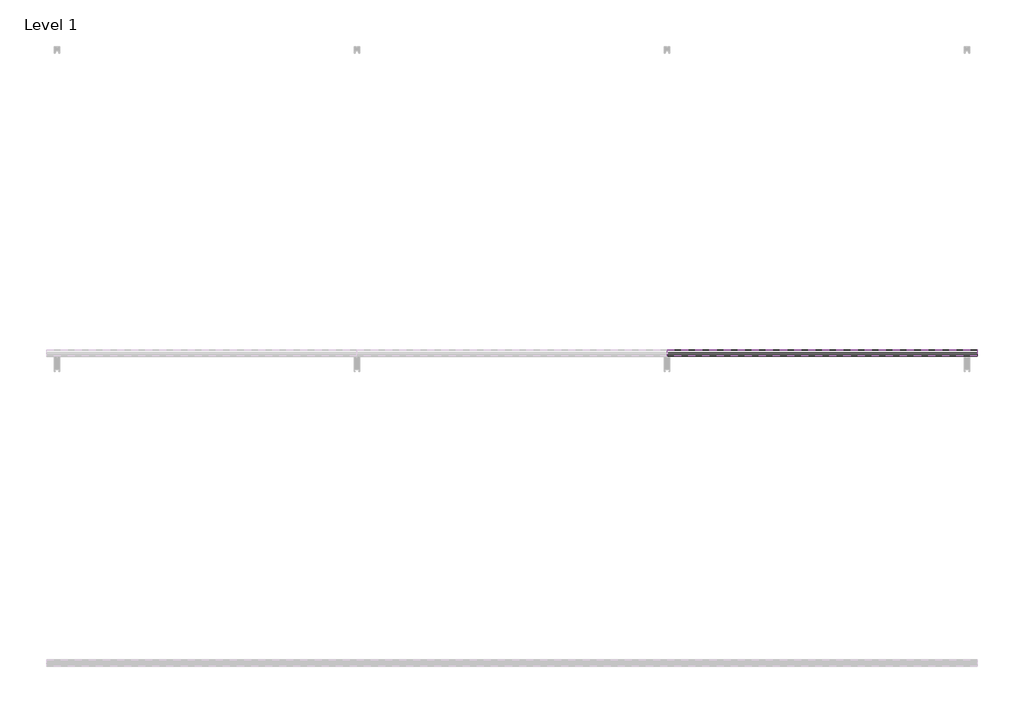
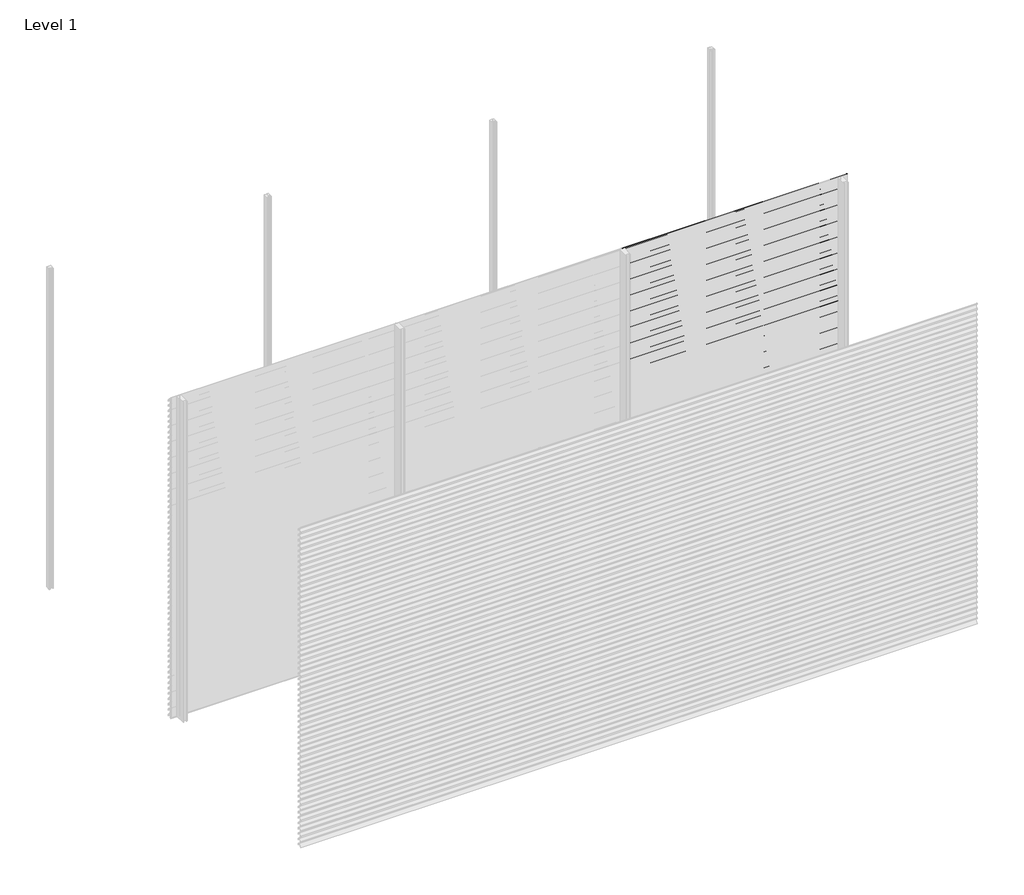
# One storey, part 27 of 38: 66 proxies.
"""IFC4 building model written with IfcOpenShell, lengths in millimetres."""

from ifc_helpers import new_model, si_unit, frame, origin, place, context, project, spatial, polyline, outline, extrude, element, save

model = new_model("IFC4")

# Units and contexts
model_context = context("Model", 3, world=origin())
ifc_project = project(units=[si_unit("LENGTHUNIT", "METRE", prefix="MILLI")], contexts=[model_context])

# Site, building, storey
site = spatial("IfcSite", under=ifc_project)
building = spatial("IfcBuilding", under=site)
storey = spatial("IfcBuildingStorey", under=building, Name="Level 1", Elevation=0.0)

# Proxies
placement = place(None, origin())
element("IfcBuildingElementProxy", 1, Name="Wall Sweeps", at=placement, inside=storey, context=model_context, shape_type="SweptSolid", body=[
    extrude(outline(polyline([(-17996.75, 750.0), (-17996.75, 739.19656), (-17974.6057113, 726.4115489), (-17957.0, 709.0472005), (-17957.0, 694.0472005), (-17958.3, 695.0268207), (-17958.3, 708.5034593), (-17969.4914725, 719.541504), (-17994.2797376, 690.0), (-17995.9767671, 690.0), (-17970.4200307, 720.4573323), (-17975.3999793, 725.3690091), (-17998.0, 738.4171371), (-17998.0, 750.0), (-17996.75, 750.0)])), frame((2000.0, 0.0, 0.0), z_axis=(1.0, 0.0, 0.0), x_axis=(0.0, 1.0, 0.0)), (0.0, 0.0, 1.0), 2000.0),
])
element("IfcBuildingElementProxy", 2, Name="Wall Sweeps", at=placement, inside=storey, context=model_context, shape_type="SweptSolid", body=[
    extrude(outline(polyline([(-17996.75, 700.0), (-17996.75, 689.19656), (-17974.6057113, 676.4115489), (-17957.0, 659.0472005), (-17957.0, 644.0472005), (-17958.3, 645.0268207), (-17958.3, 658.5034593), (-17969.4914725, 669.541504), (-17994.2797376, 640.0), (-17995.9767671, 640.0), (-17970.4200307, 670.4573323), (-17975.3999793, 675.3690091), (-17998.0, 688.4171371), (-17998.0, 700.0), (-17996.75, 700.0)])), frame((2000.0, 0.0, 0.0), z_axis=(1.0, 0.0, 0.0), x_axis=(0.0, 1.0, 0.0)), (0.0, 0.0, 1.0), 2000.0),
])
element("IfcBuildingElementProxy", 3, Name="Wall Sweeps", at=placement, inside=storey, context=model_context, shape_type="SweptSolid", body=[
    extrude(outline(polyline([(-17996.75, 650.0), (-17996.75, 639.19656), (-17974.6057113, 626.4115489), (-17957.0, 609.0472005), (-17957.0, 594.0472005), (-17958.3, 595.0268207), (-17958.3, 608.5034593), (-17969.4914725, 619.541504), (-17994.2797376, 590.0), (-17995.9767671, 590.0), (-17970.4200307, 620.4573323), (-17975.3999793, 625.3690091), (-17998.0, 638.4171371), (-17998.0, 650.0), (-17996.75, 650.0)])), frame((2000.0, 0.0, 0.0), z_axis=(1.0, 0.0, 0.0), x_axis=(0.0, 1.0, 0.0)), (0.0, 0.0, 1.0), 2000.0),
])
element("IfcBuildingElementProxy", 4, Name="Wall Sweeps", at=placement, inside=storey, context=model_context, shape_type="SweptSolid", body=[
    extrude(outline(polyline([(-17996.75, 600.0), (-17996.75, 589.19656), (-17974.6057113, 576.4115489), (-17957.0, 559.0472005), (-17957.0, 544.0472005), (-17958.3, 545.0268207), (-17958.3, 558.5034593), (-17969.4914725, 569.541504), (-17994.2797376, 540.0), (-17995.9767671, 540.0), (-17970.4200307, 570.4573323), (-17975.3999793, 575.3690091), (-17998.0, 588.4171371), (-17998.0, 600.0), (-17996.75, 600.0)])), frame((2000.0, 0.0, 0.0), z_axis=(1.0, 0.0, 0.0), x_axis=(0.0, 1.0, 0.0)), (0.0, 0.0, 1.0), 2000.0),
])
element("IfcBuildingElementProxy", 5, Name="Wall Sweeps", at=placement, inside=storey, context=model_context, shape_type="SweptSolid", body=[
    extrude(outline(polyline([(-17996.75, 550.0), (-17996.75, 539.19656), (-17974.6057113, 526.4115489), (-17957.0, 509.0472005), (-17957.0, 494.0472005), (-17958.3, 495.0268207), (-17958.3, 508.5034593), (-17969.4914725, 519.541504), (-17994.2797376, 490.0), (-17995.9767671, 490.0), (-17970.4200307, 520.4573323), (-17975.3999793, 525.3690091), (-17998.0, 538.4171371), (-17998.0, 550.0), (-17996.75, 550.0)])), frame((2000.0, 0.0, 0.0), z_axis=(1.0, 0.0, 0.0), x_axis=(0.0, 1.0, 0.0)), (0.0, 0.0, 1.0), 2000.0),
])
element("IfcBuildingElementProxy", 6, Name="Wall Sweeps", at=placement, inside=storey, context=model_context, shape_type="SweptSolid", body=[
    extrude(outline(polyline([(-17996.75, 500.0), (-17996.75, 489.19656), (-17974.6057113, 476.4115489), (-17957.0, 459.0472005), (-17957.0, 444.0472005), (-17958.3, 445.0268207), (-17958.3, 458.5034593), (-17969.4914725, 469.541504), (-17994.2797376, 440.0), (-17995.9767671, 440.0), (-17970.4200307, 470.4573323), (-17975.3999793, 475.3690091), (-17998.0, 488.4171371), (-17998.0, 500.0), (-17996.75, 500.0)])), frame((2000.0, 0.0, 0.0), z_axis=(1.0, 0.0, 0.0), x_axis=(0.0, 1.0, 0.0)), (0.0, 0.0, 1.0), 2000.0),
])
element("IfcBuildingElementProxy", 7, Name="Wall Sweeps", at=placement, inside=storey, context=model_context, shape_type="SweptSolid", body=[
    extrude(outline(polyline([(-17996.75, 450.0), (-17996.75, 439.19656), (-17974.6057113, 426.4115489), (-17957.0, 409.0472005), (-17957.0, 394.0472005), (-17958.3, 395.0268207), (-17958.3, 408.5034593), (-17969.4914725, 419.541504), (-17994.2797376, 390.0), (-17995.9767671, 390.0), (-17970.4200307, 420.4573323), (-17975.3999793, 425.3690091), (-17998.0, 438.4171371), (-17998.0, 450.0), (-17996.75, 450.0)])), frame((2000.0, 0.0, 0.0), z_axis=(1.0, 0.0, 0.0), x_axis=(0.0, 1.0, 0.0)), (0.0, 0.0, 1.0), 2000.0),
])
element("IfcBuildingElementProxy", 8, Name="Wall Sweeps", at=placement, inside=storey, context=model_context, shape_type="SweptSolid", body=[
    extrude(outline(polyline([(-17996.75, 400.0), (-17996.75, 389.19656), (-17974.6057113, 376.4115489), (-17957.0, 359.0472005), (-17957.0, 344.0472005), (-17958.3, 345.0268207), (-17958.3, 358.5034593), (-17969.4914725, 369.541504), (-17994.2797376, 340.0), (-17995.9767671, 340.0), (-17970.4200307, 370.4573323), (-17975.3999793, 375.3690091), (-17998.0, 388.4171371), (-17998.0, 400.0), (-17996.75, 400.0)])), frame((2000.0, 0.0, 0.0), z_axis=(1.0, 0.0, 0.0), x_axis=(0.0, 1.0, 0.0)), (0.0, 0.0, 1.0), 2000.0),
])
element("IfcBuildingElementProxy", 9, Name="Wall Sweeps", at=placement, inside=storey, context=model_context, shape_type="SweptSolid", body=[
    extrude(outline(polyline([(-17996.75, 350.0), (-17996.75, 339.19656), (-17974.6057113, 326.4115489), (-17957.0, 309.0472005), (-17957.0, 294.0472005), (-17958.3, 295.0268207), (-17958.3, 308.5034593), (-17969.4914725, 319.541504), (-17994.2797376, 290.0), (-17995.9767671, 290.0), (-17970.4200307, 320.4573323), (-17975.3999793, 325.3690091), (-17998.0, 338.4171371), (-17998.0, 350.0), (-17996.75, 350.0)])), frame((2000.0, 0.0, 0.0), z_axis=(1.0, 0.0, 0.0), x_axis=(0.0, 1.0, 0.0)), (0.0, 0.0, 1.0), 2000.0),
])
element("IfcBuildingElementProxy", 10, Name="Wall Sweeps", at=placement, inside=storey, context=model_context, shape_type="SweptSolid", body=[
    extrude(outline(polyline([(-17996.75, 300.0), (-17996.75, 289.19656), (-17974.6057113, 276.4115489), (-17957.0, 259.0472005), (-17957.0, 244.0472005), (-17958.3, 245.0268207), (-17958.3, 258.5034593), (-17969.4914725, 269.541504), (-17994.2797376, 240.0), (-17995.9767671, 240.0), (-17970.4200307, 270.4573323), (-17975.3999793, 275.3690091), (-17998.0, 288.4171371), (-17998.0, 300.0), (-17996.75, 300.0)])), frame((2000.0, 0.0, 0.0), z_axis=(1.0, 0.0, 0.0), x_axis=(0.0, 1.0, 0.0)), (0.0, 0.0, 1.0), 2000.0),
])
element("IfcBuildingElementProxy", 11, Name="Wall Sweeps", at=placement, inside=storey, context=model_context, shape_type="SweptSolid", body=[
    extrude(outline(polyline([(-17996.75, 250.0), (-17996.75, 239.19656), (-17974.6057113, 226.4115489), (-17957.0, 209.0472005), (-17957.0, 194.0472005), (-17958.3, 195.0268207), (-17958.3, 208.5034593), (-17969.4914725, 219.541504), (-17994.2797376, 190.0), (-17995.9767671, 190.0), (-17970.4200307, 220.4573323), (-17975.3999793, 225.3690091), (-17998.0, 238.4171371), (-17998.0, 250.0), (-17996.75, 250.0)])), frame((2000.0, 0.0, 0.0), z_axis=(1.0, 0.0, 0.0), x_axis=(0.0, 1.0, 0.0)), (0.0, 0.0, 1.0), 2000.0),
])
element("IfcBuildingElementProxy", 12, Name="Wall Sweeps", at=placement, inside=storey, context=model_context, shape_type="SweptSolid", body=[
    extrude(outline(polyline([(-17996.75, 200.0), (-17996.75, 189.19656), (-17974.6057113, 176.4115489), (-17957.0, 159.0472005), (-17957.0, 144.0472005), (-17958.3, 145.0268207), (-17958.3, 158.5034593), (-17969.4914725, 169.541504), (-17994.2797376, 140.0), (-17995.9767671, 140.0), (-17970.4200307, 170.4573323), (-17975.3999793, 175.3690091), (-17998.0, 188.4171371), (-17998.0, 200.0), (-17996.75, 200.0)])), frame((2000.0, 0.0, 0.0), z_axis=(1.0, 0.0, 0.0), x_axis=(0.0, 1.0, 0.0)), (0.0, 0.0, 1.0), 2000.0),
])
element("IfcBuildingElementProxy", 13, Name="Wall Sweeps", at=placement, inside=storey, context=model_context, shape_type="SweptSolid", body=[
    extrude(outline(polyline([(-17996.75, 150.0), (-17996.75, 139.19656), (-17974.6057113, 126.4115489), (-17957.0, 109.0472005), (-17957.0, 94.0472005), (-17958.3, 95.0268207), (-17958.3, 108.5034593), (-17969.4914725, 119.541504), (-17994.2797376, 90.0), (-17995.9767671, 90.0), (-17970.4200307, 120.4573323), (-17975.3999793, 125.3690091), (-17998.0, 138.4171371), (-17998.0, 150.0), (-17996.75, 150.0)])), frame((2000.0, 0.0, 0.0), z_axis=(1.0, 0.0, 0.0), x_axis=(0.0, 1.0, 0.0)), (0.0, 0.0, 1.0), 2000.0),
])
element("IfcBuildingElementProxy", 14, Name="Wall Sweeps", at=placement, inside=storey, context=model_context, shape_type="SweptSolid", body=[
    extrude(outline(polyline([(-17996.75, 100.0), (-17996.75, 89.19656), (-17974.6057113, 76.4115489), (-17957.0, 59.0472005), (-17957.0, 44.0472005), (-17958.3, 45.0268207), (-17958.3, 58.5034593), (-17969.4914725, 69.541504), (-17994.2797376, 40.0), (-17995.9767671, 40.0), (-17970.4200307, 70.4573323), (-17975.3999793, 75.3690091), (-17998.0, 88.4171371), (-17998.0, 100.0), (-17996.75, 100.0)])), frame((2000.0, 0.0, 0.0), z_axis=(1.0, 0.0, 0.0), x_axis=(0.0, 1.0, 0.0)), (0.0, 0.0, 1.0), 2000.0),
])
element("IfcBuildingElementProxy", 15, Name="Wall Sweeps", at=placement, inside=storey, context=model_context, shape_type="SweptSolid", body=[
    extrude(outline(polyline([(-17996.75, 50.0), (-17996.75, 39.19656), (-17974.6057113, 26.4115489), (-17957.0, 9.0472005), (-17957.0, -5.9527995), (-17958.3, -4.9731793), (-17958.3, 8.5034593), (-17969.4914725, 19.541504), (-17994.2797376, -10.0), (-17995.9767671, -10.0), (-17970.4200307, 20.4573323), (-17975.3999793, 25.3690091), (-17998.0, 38.4171371), (-17998.0, 50.0), (-17996.75, 50.0)])), frame((2000.0, 0.0, 0.0), z_axis=(1.0, 0.0, 0.0), x_axis=(0.0, 1.0, 0.0)), (0.0, 0.0, 1.0), 2000.0),
])
element("IfcBuildingElementProxy", 16, Name="Wall Sweeps", at=placement, inside=storey, context=model_context, shape_type="SweptSolid", body=[
    extrude(outline(polyline([(-17996.75, 3000.0), (-17996.75, 2989.19656), (-17974.6057113, 2976.4115489), (-17957.0, 2959.0472005), (-17957.0, 2944.0472005), (-17958.3, 2945.0268207), (-17958.3, 2958.5034593), (-17969.4914725, 2969.541504), (-17994.2797376, 2940.0), (-17995.9767671, 2940.0), (-17970.4200307, 2970.4573323), (-17975.3999793, 2975.3690091), (-17998.0, 2988.4171371), (-17998.0, 3000.0), (-17996.75, 3000.0)])), frame((4000.0, 0.0, 0.0), z_axis=(1.0, 0.0, 0.0), x_axis=(0.0, 1.0, 0.0)), (0.0, 0.0, 1.0), 2000.0),
])
element("IfcBuildingElementProxy", 17, Name="Wall Sweeps", at=placement, inside=storey, context=model_context, shape_type="SweptSolid", body=[
    extrude(outline(polyline([(-17996.75, 2950.0), (-17996.75, 2939.19656), (-17974.6057113, 2926.4115489), (-17957.0, 2909.0472005), (-17957.0, 2894.0472005), (-17958.3, 2895.0268207), (-17958.3, 2908.5034593), (-17969.4914725, 2919.541504), (-17994.2797376, 2890.0), (-17995.9767671, 2890.0), (-17970.4200307, 2920.4573323), (-17975.3999793, 2925.3690091), (-17998.0, 2938.4171371), (-17998.0, 2950.0), (-17996.75, 2950.0)])), frame((4000.0, 0.0, 0.0), z_axis=(1.0, 0.0, 0.0), x_axis=(0.0, 1.0, 0.0)), (0.0, 0.0, 1.0), 2000.0),
])
element("IfcBuildingElementProxy", 18, Name="Wall Sweeps", at=placement, inside=storey, context=model_context, shape_type="SweptSolid", body=[
    extrude(outline(polyline([(-17996.75, 2900.0), (-17996.75, 2889.19656), (-17974.6057113, 2876.4115489), (-17957.0, 2859.0472005), (-17957.0, 2844.0472005), (-17958.3, 2845.0268207), (-17958.3, 2858.5034593), (-17969.4914725, 2869.541504), (-17994.2797376, 2840.0), (-17995.9767671, 2840.0), (-17970.4200307, 2870.4573323), (-17975.3999793, 2875.3690091), (-17998.0, 2888.4171371), (-17998.0, 2900.0), (-17996.75, 2900.0)])), frame((4000.0, 0.0, 0.0), z_axis=(1.0, 0.0, 0.0), x_axis=(0.0, 1.0, 0.0)), (0.0, 0.0, 1.0), 2000.0),
])
element("IfcBuildingElementProxy", 19, Name="Wall Sweeps", at=placement, inside=storey, context=model_context, shape_type="SweptSolid", body=[
    extrude(outline(polyline([(-17996.75, 2850.0), (-17996.75, 2839.19656), (-17974.6057113, 2826.4115489), (-17957.0, 2809.0472005), (-17957.0, 2794.0472005), (-17958.3, 2795.0268207), (-17958.3, 2808.5034593), (-17969.4914725, 2819.541504), (-17994.2797376, 2790.0), (-17995.9767671, 2790.0), (-17970.4200307, 2820.4573323), (-17975.3999793, 2825.3690091), (-17998.0, 2838.4171371), (-17998.0, 2850.0), (-17996.75, 2850.0)])), frame((4000.0, 0.0, 0.0), z_axis=(1.0, 0.0, 0.0), x_axis=(0.0, 1.0, 0.0)), (0.0, 0.0, 1.0), 2000.0),
])
element("IfcBuildingElementProxy", 20, Name="Wall Sweeps", at=placement, inside=storey, context=model_context, shape_type="SweptSolid", body=[
    extrude(outline(polyline([(-17996.75, 2800.0), (-17996.75, 2789.19656), (-17974.6057113, 2776.4115489), (-17957.0, 2759.0472005), (-17957.0, 2744.0472005), (-17958.3, 2745.0268207), (-17958.3, 2758.5034593), (-17969.4914725, 2769.541504), (-17994.2797376, 2740.0), (-17995.9767671, 2740.0), (-17970.4200307, 2770.4573323), (-17975.3999793, 2775.3690091), (-17998.0, 2788.4171371), (-17998.0, 2800.0), (-17996.75, 2800.0)])), frame((4000.0, 0.0, 0.0), z_axis=(1.0, 0.0, 0.0), x_axis=(0.0, 1.0, 0.0)), (0.0, 0.0, 1.0), 2000.0),
])
element("IfcBuildingElementProxy", 21, Name="Wall Sweeps", at=placement, inside=storey, context=model_context, shape_type="SweptSolid", body=[
    extrude(outline(polyline([(-17996.75, 2750.0), (-17996.75, 2739.19656), (-17974.6057113, 2726.4115489), (-17957.0, 2709.0472005), (-17957.0, 2694.0472005), (-17958.3, 2695.0268207), (-17958.3, 2708.5034593), (-17969.4914725, 2719.541504), (-17994.2797376, 2690.0), (-17995.9767671, 2690.0), (-17970.4200307, 2720.4573323), (-17975.3999793, 2725.3690091), (-17998.0, 2738.4171371), (-17998.0, 2750.0), (-17996.75, 2750.0)])), frame((4000.0, 0.0, 0.0), z_axis=(1.0, 0.0, 0.0), x_axis=(0.0, 1.0, 0.0)), (0.0, 0.0, 1.0), 2000.0),
])
element("IfcBuildingElementProxy", 22, Name="Wall Sweeps", at=placement, inside=storey, context=model_context, shape_type="SweptSolid", body=[
    extrude(outline(polyline([(-17996.75, 2700.0), (-17996.75, 2689.19656), (-17974.6057113, 2676.4115489), (-17957.0, 2659.0472005), (-17957.0, 2644.0472005), (-17958.3, 2645.0268207), (-17958.3, 2658.5034593), (-17969.4914725, 2669.541504), (-17994.2797376, 2640.0), (-17995.9767671, 2640.0), (-17970.4200307, 2670.4573323), (-17975.3999793, 2675.3690091), (-17998.0, 2688.4171371), (-17998.0, 2700.0), (-17996.75, 2700.0)])), frame((4000.0, 0.0, 0.0), z_axis=(1.0, 0.0, 0.0), x_axis=(0.0, 1.0, 0.0)), (0.0, 0.0, 1.0), 2000.0),
])
element("IfcBuildingElementProxy", 23, Name="Wall Sweeps", at=placement, inside=storey, context=model_context, shape_type="SweptSolid", body=[
    extrude(outline(polyline([(-17996.75, 2650.0), (-17996.75, 2639.19656), (-17974.6057113, 2626.4115489), (-17957.0, 2609.0472005), (-17957.0, 2594.0472005), (-17958.3, 2595.0268207), (-17958.3, 2608.5034593), (-17969.4914725, 2619.541504), (-17994.2797376, 2590.0), (-17995.9767671, 2590.0), (-17970.4200307, 2620.4573323), (-17975.3999793, 2625.3690091), (-17998.0, 2638.4171371), (-17998.0, 2650.0), (-17996.75, 2650.0)])), frame((4000.0, 0.0, 0.0), z_axis=(1.0, 0.0, 0.0), x_axis=(0.0, 1.0, 0.0)), (0.0, 0.0, 1.0), 2000.0),
])
element("IfcBuildingElementProxy", 24, Name="Wall Sweeps", at=placement, inside=storey, context=model_context, shape_type="SweptSolid", body=[
    extrude(outline(polyline([(-17996.75, 2600.0), (-17996.75, 2589.19656), (-17974.6057113, 2576.4115489), (-17957.0, 2559.0472005), (-17957.0, 2544.0472005), (-17958.3, 2545.0268207), (-17958.3, 2558.5034593), (-17969.4914725, 2569.541504), (-17994.2797376, 2540.0), (-17995.9767671, 2540.0), (-17970.4200307, 2570.4573323), (-17975.3999793, 2575.3690091), (-17998.0, 2588.4171371), (-17998.0, 2600.0), (-17996.75, 2600.0)])), frame((4000.0, 0.0, 0.0), z_axis=(1.0, 0.0, 0.0), x_axis=(0.0, 1.0, 0.0)), (0.0, 0.0, 1.0), 2000.0),
])
element("IfcBuildingElementProxy", 25, Name="Wall Sweeps", at=placement, inside=storey, context=model_context, shape_type="SweptSolid", body=[
    extrude(outline(polyline([(-17996.75, 2550.0), (-17996.75, 2539.19656), (-17974.6057113, 2526.4115489), (-17957.0, 2509.0472005), (-17957.0, 2494.0472005), (-17958.3, 2495.0268207), (-17958.3, 2508.5034593), (-17969.4914725, 2519.541504), (-17994.2797376, 2490.0), (-17995.9767671, 2490.0), (-17970.4200307, 2520.4573323), (-17975.3999793, 2525.3690091), (-17998.0, 2538.4171371), (-17998.0, 2550.0), (-17996.75, 2550.0)])), frame((4000.0, 0.0, 0.0), z_axis=(1.0, 0.0, 0.0), x_axis=(0.0, 1.0, 0.0)), (0.0, 0.0, 1.0), 2000.0),
])
element("IfcBuildingElementProxy", 26, Name="Wall Sweeps", at=placement, inside=storey, context=model_context, shape_type="SweptSolid", body=[
    extrude(outline(polyline([(-17996.75, 2500.0), (-17996.75, 2489.19656), (-17974.6057113, 2476.4115489), (-17957.0, 2459.0472005), (-17957.0, 2444.0472005), (-17958.3, 2445.0268207), (-17958.3, 2458.5034593), (-17969.4914725, 2469.541504), (-17994.2797376, 2440.0), (-17995.9767671, 2440.0), (-17970.4200307, 2470.4573323), (-17975.3999793, 2475.3690091), (-17998.0, 2488.4171371), (-17998.0, 2500.0), (-17996.75, 2500.0)])), frame((4000.0, 0.0, 0.0), z_axis=(1.0, 0.0, 0.0), x_axis=(0.0, 1.0, 0.0)), (0.0, 0.0, 1.0), 2000.0),
])
element("IfcBuildingElementProxy", 27, Name="Wall Sweeps", at=placement, inside=storey, context=model_context, shape_type="SweptSolid", body=[
    extrude(outline(polyline([(-17996.75, 2450.0), (-17996.75, 2439.19656), (-17974.6057113, 2426.4115489), (-17957.0, 2409.0472005), (-17957.0, 2394.0472005), (-17958.3, 2395.0268207), (-17958.3, 2408.5034593), (-17969.4914725, 2419.541504), (-17994.2797376, 2390.0), (-17995.9767671, 2390.0), (-17970.4200307, 2420.4573323), (-17975.3999793, 2425.3690091), (-17998.0, 2438.4171371), (-17998.0, 2450.0), (-17996.75, 2450.0)])), frame((4000.0, 0.0, 0.0), z_axis=(1.0, 0.0, 0.0), x_axis=(0.0, 1.0, 0.0)), (0.0, 0.0, 1.0), 2000.0),
])
element("IfcBuildingElementProxy", 28, Name="Wall Sweeps", at=placement, inside=storey, context=model_context, shape_type="SweptSolid", body=[
    extrude(outline(polyline([(-17996.75, 2400.0), (-17996.75, 2389.19656), (-17974.6057113, 2376.4115489), (-17957.0, 2359.0472005), (-17957.0, 2344.0472005), (-17958.3, 2345.0268207), (-17958.3, 2358.5034593), (-17969.4914725, 2369.541504), (-17994.2797376, 2340.0), (-17995.9767671, 2340.0), (-17970.4200307, 2370.4573323), (-17975.3999793, 2375.3690091), (-17998.0, 2388.4171371), (-17998.0, 2400.0), (-17996.75, 2400.0)])), frame((4000.0, 0.0, 0.0), z_axis=(1.0, 0.0, 0.0), x_axis=(0.0, 1.0, 0.0)), (0.0, 0.0, 1.0), 2000.0),
])
element("IfcBuildingElementProxy", 29, Name="Wall Sweeps", at=placement, inside=storey, context=model_context, shape_type="SweptSolid", body=[
    extrude(outline(polyline([(-17996.75, 2350.0), (-17996.75, 2339.19656), (-17974.6057113, 2326.4115489), (-17957.0, 2309.0472005), (-17957.0, 2294.0472005), (-17958.3, 2295.0268207), (-17958.3, 2308.5034593), (-17969.4914725, 2319.541504), (-17994.2797376, 2290.0), (-17995.9767671, 2290.0), (-17970.4200307, 2320.4573323), (-17975.3999793, 2325.3690091), (-17998.0, 2338.4171371), (-17998.0, 2350.0), (-17996.75, 2350.0)])), frame((4000.0, 0.0, 0.0), z_axis=(1.0, 0.0, 0.0), x_axis=(0.0, 1.0, 0.0)), (0.0, 0.0, 1.0), 2000.0),
])
element("IfcBuildingElementProxy", 30, Name="Wall Sweeps", at=placement, inside=storey, context=model_context, shape_type="SweptSolid", body=[
    extrude(outline(polyline([(-17996.75, 2300.0), (-17996.75, 2289.19656), (-17974.6057113, 2276.4115489), (-17957.0, 2259.0472005), (-17957.0, 2244.0472005), (-17958.3, 2245.0268207), (-17958.3, 2258.5034593), (-17969.4914725, 2269.541504), (-17994.2797376, 2240.0), (-17995.9767671, 2240.0), (-17970.4200307, 2270.4573323), (-17975.3999793, 2275.3690091), (-17998.0, 2288.4171371), (-17998.0, 2300.0), (-17996.75, 2300.0)])), frame((4000.0, 0.0, 0.0), z_axis=(1.0, 0.0, 0.0), x_axis=(0.0, 1.0, 0.0)), (0.0, 0.0, 1.0), 2000.0),
])
element("IfcBuildingElementProxy", 31, Name="Wall Sweeps", at=placement, inside=storey, context=model_context, shape_type="SweptSolid", body=[
    extrude(outline(polyline([(-17996.75, 2250.0), (-17996.75, 2239.19656), (-17974.6057113, 2226.4115489), (-17957.0, 2209.0472005), (-17957.0, 2194.0472005), (-17958.3, 2195.0268207), (-17958.3, 2208.5034593), (-17969.4914725, 2219.541504), (-17994.2797376, 2190.0), (-17995.9767671, 2190.0), (-17970.4200307, 2220.4573323), (-17975.3999793, 2225.3690091), (-17998.0, 2238.4171371), (-17998.0, 2250.0), (-17996.75, 2250.0)])), frame((4000.0, 0.0, 0.0), z_axis=(1.0, 0.0, 0.0), x_axis=(0.0, 1.0, 0.0)), (0.0, 0.0, 1.0), 2000.0),
])
element("IfcBuildingElementProxy", 32, Name="Wall Sweeps", at=placement, inside=storey, context=model_context, shape_type="SweptSolid", body=[
    extrude(outline(polyline([(-17996.75, 2200.0), (-17996.75, 2189.19656), (-17974.6057113, 2176.4115489), (-17957.0, 2159.0472005), (-17957.0, 2144.0472005), (-17958.3, 2145.0268207), (-17958.3, 2158.5034593), (-17969.4914725, 2169.541504), (-17994.2797376, 2140.0), (-17995.9767671, 2140.0), (-17970.4200307, 2170.4573323), (-17975.3999793, 2175.3690091), (-17998.0, 2188.4171371), (-17998.0, 2200.0), (-17996.75, 2200.0)])), frame((4000.0, 0.0, 0.0), z_axis=(1.0, 0.0, 0.0), x_axis=(0.0, 1.0, 0.0)), (0.0, 0.0, 1.0), 2000.0),
])
element("IfcBuildingElementProxy", 33, Name="Wall Sweeps", at=placement, inside=storey, context=model_context, shape_type="SweptSolid", body=[
    extrude(outline(polyline([(-17996.75, 2150.0), (-17996.75, 2139.19656), (-17974.6057113, 2126.4115489), (-17957.0, 2109.0472005), (-17957.0, 2094.0472005), (-17958.3, 2095.0268207), (-17958.3, 2108.5034593), (-17969.4914725, 2119.541504), (-17994.2797376, 2090.0), (-17995.9767671, 2090.0), (-17970.4200307, 2120.4573323), (-17975.3999793, 2125.3690091), (-17998.0, 2138.4171371), (-17998.0, 2150.0), (-17996.75, 2150.0)])), frame((4000.0, 0.0, 0.0), z_axis=(1.0, 0.0, 0.0), x_axis=(0.0, 1.0, 0.0)), (0.0, 0.0, 1.0), 2000.0),
])
element("IfcBuildingElementProxy", 34, Name="Wall Sweeps", at=placement, inside=storey, context=model_context, shape_type="SweptSolid", body=[
    extrude(outline(polyline([(-17996.75, 2100.0), (-17996.75, 2089.19656), (-17974.6057113, 2076.4115489), (-17957.0, 2059.0472005), (-17957.0, 2044.0472005), (-17958.3, 2045.0268207), (-17958.3, 2058.5034593), (-17969.4914725, 2069.541504), (-17994.2797376, 2040.0), (-17995.9767671, 2040.0), (-17970.4200307, 2070.4573323), (-17975.3999793, 2075.3690091), (-17998.0, 2088.4171371), (-17998.0, 2100.0), (-17996.75, 2100.0)])), frame((4000.0, 0.0, 0.0), z_axis=(1.0, 0.0, 0.0), x_axis=(0.0, 1.0, 0.0)), (0.0, 0.0, 1.0), 2000.0),
])
element("IfcBuildingElementProxy", 35, Name="Wall Sweeps", at=placement, inside=storey, context=model_context, shape_type="SweptSolid", body=[
    extrude(outline(polyline([(-17996.75, 2050.0), (-17996.75, 2039.19656), (-17974.6057113, 2026.4115489), (-17957.0, 2009.0472005), (-17957.0, 1994.0472005), (-17958.3, 1995.0268207), (-17958.3, 2008.5034593), (-17969.4914725, 2019.541504), (-17994.2797376, 1990.0), (-17995.9767671, 1990.0), (-17970.4200307, 2020.4573323), (-17975.3999793, 2025.3690091), (-17998.0, 2038.4171371), (-17998.0, 2050.0), (-17996.75, 2050.0)])), frame((4000.0, 0.0, 0.0), z_axis=(1.0, 0.0, 0.0), x_axis=(0.0, 1.0, 0.0)), (0.0, 0.0, 1.0), 2000.0),
])
element("IfcBuildingElementProxy", 36, Name="Wall Sweeps", at=placement, inside=storey, context=model_context, shape_type="SweptSolid", body=[
    extrude(outline(polyline([(-17996.75, 2000.0), (-17996.75, 1989.19656), (-17974.6057113, 1976.4115489), (-17957.0, 1959.0472005), (-17957.0, 1944.0472005), (-17958.3, 1945.0268207), (-17958.3, 1958.5034593), (-17969.4914725, 1969.541504), (-17994.2797376, 1940.0), (-17995.9767671, 1940.0), (-17970.4200307, 1970.4573323), (-17975.3999793, 1975.3690091), (-17998.0, 1988.4171371), (-17998.0, 2000.0), (-17996.75, 2000.0)])), frame((4000.0, 0.0, 0.0), z_axis=(1.0, 0.0, 0.0), x_axis=(0.0, 1.0, 0.0)), (0.0, 0.0, 1.0), 2000.0),
])
element("IfcBuildingElementProxy", 37, Name="Wall Sweeps", at=placement, inside=storey, context=model_context, shape_type="SweptSolid", body=[
    extrude(outline(polyline([(-17996.75, 1950.0), (-17996.75, 1939.19656), (-17974.6057113, 1926.4115489), (-17957.0, 1909.0472005), (-17957.0, 1894.0472005), (-17958.3, 1895.0268207), (-17958.3, 1908.5034593), (-17969.4914725, 1919.541504), (-17994.2797376, 1890.0), (-17995.9767671, 1890.0), (-17970.4200307, 1920.4573323), (-17975.3999793, 1925.3690091), (-17998.0, 1938.4171371), (-17998.0, 1950.0), (-17996.75, 1950.0)])), frame((4000.0, 0.0, 0.0), z_axis=(1.0, 0.0, 0.0), x_axis=(0.0, 1.0, 0.0)), (0.0, 0.0, 1.0), 2000.0),
])
element("IfcBuildingElementProxy", 38, Name="Wall Sweeps", at=placement, inside=storey, context=model_context, shape_type="SweptSolid", body=[
    extrude(outline(polyline([(-17996.75, 1900.0), (-17996.75, 1889.19656), (-17974.6057113, 1876.4115489), (-17957.0, 1859.0472005), (-17957.0, 1844.0472005), (-17958.3, 1845.0268207), (-17958.3, 1858.5034593), (-17969.4914725, 1869.541504), (-17994.2797376, 1840.0), (-17995.9767671, 1840.0), (-17970.4200307, 1870.4573323), (-17975.3999793, 1875.3690091), (-17998.0, 1888.4171371), (-17998.0, 1900.0), (-17996.75, 1900.0)])), frame((4000.0, 0.0, 0.0), z_axis=(1.0, 0.0, 0.0), x_axis=(0.0, 1.0, 0.0)), (0.0, 0.0, 1.0), 2000.0),
])
element("IfcBuildingElementProxy", 39, Name="Wall Sweeps", at=placement, inside=storey, context=model_context, shape_type="SweptSolid", body=[
    extrude(outline(polyline([(-17996.75, 1850.0), (-17996.75, 1839.19656), (-17974.6057113, 1826.4115489), (-17957.0, 1809.0472005), (-17957.0, 1794.0472005), (-17958.3, 1795.0268207), (-17958.3, 1808.5034593), (-17969.4914725, 1819.541504), (-17994.2797376, 1790.0), (-17995.9767671, 1790.0), (-17970.4200307, 1820.4573323), (-17975.3999793, 1825.3690091), (-17998.0, 1838.4171371), (-17998.0, 1850.0), (-17996.75, 1850.0)])), frame((4000.0, 0.0, 0.0), z_axis=(1.0, 0.0, 0.0), x_axis=(0.0, 1.0, 0.0)), (0.0, 0.0, 1.0), 2000.0),
])
element("IfcBuildingElementProxy", 40, Name="Wall Sweeps", at=placement, inside=storey, context=model_context, shape_type="SweptSolid", body=[
    extrude(outline(polyline([(-17996.75, 1800.0), (-17996.75, 1789.19656), (-17974.6057113, 1776.4115489), (-17957.0, 1759.0472005), (-17957.0, 1744.0472005), (-17958.3, 1745.0268207), (-17958.3, 1758.5034593), (-17969.4914725, 1769.541504), (-17994.2797376, 1740.0), (-17995.9767671, 1740.0), (-17970.4200307, 1770.4573323), (-17975.3999793, 1775.3690091), (-17998.0, 1788.4171371), (-17998.0, 1800.0), (-17996.75, 1800.0)])), frame((4000.0, 0.0, 0.0), z_axis=(1.0, 0.0, 0.0), x_axis=(0.0, 1.0, 0.0)), (0.0, 0.0, 1.0), 2000.0),
])
element("IfcBuildingElementProxy", 41, Name="Wall Sweeps", at=placement, inside=storey, context=model_context, shape_type="SweptSolid", body=[
    extrude(outline(polyline([(-17996.75, 1750.0), (-17996.75, 1739.19656), (-17974.6057113, 1726.4115489), (-17957.0, 1709.0472005), (-17957.0, 1694.0472005), (-17958.3, 1695.0268207), (-17958.3, 1708.5034593), (-17969.4914725, 1719.541504), (-17994.2797376, 1690.0), (-17995.9767671, 1690.0), (-17970.4200307, 1720.4573323), (-17975.3999793, 1725.3690091), (-17998.0, 1738.4171371), (-17998.0, 1750.0), (-17996.75, 1750.0)])), frame((4000.0, 0.0, 0.0), z_axis=(1.0, 0.0, 0.0), x_axis=(0.0, 1.0, 0.0)), (0.0, 0.0, 1.0), 2000.0),
])
element("IfcBuildingElementProxy", 42, Name="Wall Sweeps", at=placement, inside=storey, context=model_context, shape_type="SweptSolid", body=[
    extrude(outline(polyline([(-17996.75, 1700.0), (-17996.75, 1689.19656), (-17974.6057113, 1676.4115489), (-17957.0, 1659.0472005), (-17957.0, 1644.0472005), (-17958.3, 1645.0268207), (-17958.3, 1658.5034593), (-17969.4914725, 1669.541504), (-17994.2797376, 1640.0), (-17995.9767671, 1640.0), (-17970.4200307, 1670.4573323), (-17975.3999793, 1675.3690091), (-17998.0, 1688.4171371), (-17998.0, 1700.0), (-17996.75, 1700.0)])), frame((4000.0, 0.0, 0.0), z_axis=(1.0, 0.0, 0.0), x_axis=(0.0, 1.0, 0.0)), (0.0, 0.0, 1.0), 2000.0),
])
element("IfcBuildingElementProxy", 43, Name="Wall Sweeps", at=placement, inside=storey, context=model_context, shape_type="SweptSolid", body=[
    extrude(outline(polyline([(-17996.75, 1650.0), (-17996.75, 1639.19656), (-17974.6057113, 1626.4115489), (-17957.0, 1609.0472005), (-17957.0, 1594.0472005), (-17958.3, 1595.0268207), (-17958.3, 1608.5034593), (-17969.4914725, 1619.541504), (-17994.2797376, 1590.0), (-17995.9767671, 1590.0), (-17970.4200307, 1620.4573323), (-17975.3999793, 1625.3690091), (-17998.0, 1638.4171371), (-17998.0, 1650.0), (-17996.75, 1650.0)])), frame((4000.0, 0.0, 0.0), z_axis=(1.0, 0.0, 0.0), x_axis=(0.0, 1.0, 0.0)), (0.0, 0.0, 1.0), 2000.0),
])
element("IfcBuildingElementProxy", 44, Name="Wall Sweeps", at=placement, inside=storey, context=model_context, shape_type="SweptSolid", body=[
    extrude(outline(polyline([(-17996.75, 1600.0), (-17996.75, 1589.19656), (-17974.6057113, 1576.4115489), (-17957.0, 1559.0472005), (-17957.0, 1544.0472005), (-17958.3, 1545.0268207), (-17958.3, 1558.5034593), (-17969.4914725, 1569.541504), (-17994.2797376, 1540.0), (-17995.9767671, 1540.0), (-17970.4200307, 1570.4573323), (-17975.3999793, 1575.3690091), (-17998.0, 1588.4171371), (-17998.0, 1600.0), (-17996.75, 1600.0)])), frame((4000.0, 0.0, 0.0), z_axis=(1.0, 0.0, 0.0), x_axis=(0.0, 1.0, 0.0)), (0.0, 0.0, 1.0), 2000.0),
])
element("IfcBuildingElementProxy", 45, Name="Wall Sweeps", at=placement, inside=storey, context=model_context, shape_type="SweptSolid", body=[
    extrude(outline(polyline([(-17996.75, 1550.0), (-17996.75, 1539.19656), (-17974.6057113, 1526.4115489), (-17957.0, 1509.0472005), (-17957.0, 1494.0472005), (-17958.3, 1495.0268207), (-17958.3, 1508.5034593), (-17969.4914725, 1519.541504), (-17994.2797376, 1490.0), (-17995.9767671, 1490.0), (-17970.4200307, 1520.4573323), (-17975.3999793, 1525.3690091), (-17998.0, 1538.4171371), (-17998.0, 1550.0), (-17996.75, 1550.0)])), frame((4000.0, 0.0, 0.0), z_axis=(1.0, 0.0, 0.0), x_axis=(0.0, 1.0, 0.0)), (0.0, 0.0, 1.0), 2000.0),
])
element("IfcBuildingElementProxy", 46, Name="Wall Sweeps", at=placement, inside=storey, context=model_context, shape_type="SweptSolid", body=[
    extrude(outline(polyline([(-17996.75, 1500.0), (-17996.75, 1489.19656), (-17974.6057113, 1476.4115489), (-17957.0, 1459.0472005), (-17957.0, 1444.0472005), (-17958.3, 1445.0268207), (-17958.3, 1458.5034593), (-17969.4914725, 1469.541504), (-17994.2797376, 1440.0), (-17995.9767671, 1440.0), (-17970.4200307, 1470.4573323), (-17975.3999793, 1475.3690091), (-17998.0, 1488.4171371), (-17998.0, 1500.0), (-17996.75, 1500.0)])), frame((4000.0, 0.0, 0.0), z_axis=(1.0, 0.0, 0.0), x_axis=(0.0, 1.0, 0.0)), (0.0, 0.0, 1.0), 2000.0),
])
element("IfcBuildingElementProxy", 47, Name="Wall Sweeps", at=placement, inside=storey, context=model_context, shape_type="SweptSolid", body=[
    extrude(outline(polyline([(-17996.75, 1450.0), (-17996.75, 1439.19656), (-17974.6057113, 1426.4115489), (-17957.0, 1409.0472005), (-17957.0, 1394.0472005), (-17958.3, 1395.0268207), (-17958.3, 1408.5034593), (-17969.4914725, 1419.541504), (-17994.2797376, 1390.0), (-17995.9767671, 1390.0), (-17970.4200307, 1420.4573323), (-17975.3999793, 1425.3690091), (-17998.0, 1438.4171371), (-17998.0, 1450.0), (-17996.75, 1450.0)])), frame((4000.0, 0.0, 0.0), z_axis=(1.0, 0.0, 0.0), x_axis=(0.0, 1.0, 0.0)), (0.0, 0.0, 1.0), 2000.0),
])
element("IfcBuildingElementProxy", 48, Name="Wall Sweeps", at=placement, inside=storey, context=model_context, shape_type="SweptSolid", body=[
    extrude(outline(polyline([(-17996.75, 1400.0), (-17996.75, 1389.19656), (-17974.6057113, 1376.4115489), (-17957.0, 1359.0472005), (-17957.0, 1344.0472005), (-17958.3, 1345.0268207), (-17958.3, 1358.5034593), (-17969.4914725, 1369.541504), (-17994.2797376, 1340.0), (-17995.9767671, 1340.0), (-17970.4200307, 1370.4573323), (-17975.3999793, 1375.3690091), (-17998.0, 1388.4171371), (-17998.0, 1400.0), (-17996.75, 1400.0)])), frame((4000.0, 0.0, 0.0), z_axis=(1.0, 0.0, 0.0), x_axis=(0.0, 1.0, 0.0)), (0.0, 0.0, 1.0), 2000.0),
])
element("IfcBuildingElementProxy", 49, Name="Wall Sweeps", at=placement, inside=storey, context=model_context, shape_type="SweptSolid", body=[
    extrude(outline(polyline([(-17996.75, 1350.0), (-17996.75, 1339.19656), (-17974.6057113, 1326.4115489), (-17957.0, 1309.0472005), (-17957.0, 1294.0472005), (-17958.3, 1295.0268207), (-17958.3, 1308.5034593), (-17969.4914725, 1319.541504), (-17994.2797376, 1290.0), (-17995.9767671, 1290.0), (-17970.4200307, 1320.4573323), (-17975.3999793, 1325.3690091), (-17998.0, 1338.4171371), (-17998.0, 1350.0), (-17996.75, 1350.0)])), frame((4000.0, 0.0, 0.0), z_axis=(1.0, 0.0, 0.0), x_axis=(0.0, 1.0, 0.0)), (0.0, 0.0, 1.0), 2000.0),
])
element("IfcBuildingElementProxy", 50, Name="Wall Sweeps", at=placement, inside=storey, context=model_context, shape_type="SweptSolid", body=[
    extrude(outline(polyline([(-17996.75, 1300.0), (-17996.75, 1289.19656), (-17974.6057113, 1276.4115489), (-17957.0, 1259.0472005), (-17957.0, 1244.0472005), (-17958.3, 1245.0268207), (-17958.3, 1258.5034593), (-17969.4914725, 1269.541504), (-17994.2797376, 1240.0), (-17995.9767671, 1240.0), (-17970.4200307, 1270.4573323), (-17975.3999793, 1275.3690091), (-17998.0, 1288.4171371), (-17998.0, 1300.0), (-17996.75, 1300.0)])), frame((4000.0, 0.0, 0.0), z_axis=(1.0, 0.0, 0.0), x_axis=(0.0, 1.0, 0.0)), (0.0, 0.0, 1.0), 2000.0),
])
element("IfcBuildingElementProxy", 51, Name="Wall Sweeps", at=placement, inside=storey, context=model_context, shape_type="SweptSolid", body=[
    extrude(outline(polyline([(-17996.75, 1250.0), (-17996.75, 1239.19656), (-17974.6057113, 1226.4115489), (-17957.0, 1209.0472005), (-17957.0, 1194.0472005), (-17958.3, 1195.0268207), (-17958.3, 1208.5034593), (-17969.4914725, 1219.541504), (-17994.2797376, 1190.0), (-17995.9767671, 1190.0), (-17970.4200307, 1220.4573323), (-17975.3999793, 1225.3690091), (-17998.0, 1238.4171371), (-17998.0, 1250.0), (-17996.75, 1250.0)])), frame((4000.0, 0.0, 0.0), z_axis=(1.0, 0.0, 0.0), x_axis=(0.0, 1.0, 0.0)), (0.0, 0.0, 1.0), 2000.0),
])
element("IfcBuildingElementProxy", 52, Name="Wall Sweeps", at=placement, inside=storey, context=model_context, shape_type="SweptSolid", body=[
    extrude(outline(polyline([(-17996.75, 1200.0), (-17996.75, 1189.19656), (-17974.6057113, 1176.4115489), (-17957.0, 1159.0472005), (-17957.0, 1144.0472005), (-17958.3, 1145.0268207), (-17958.3, 1158.5034593), (-17969.4914725, 1169.541504), (-17994.2797376, 1140.0), (-17995.9767671, 1140.0), (-17970.4200307, 1170.4573323), (-17975.3999793, 1175.3690091), (-17998.0, 1188.4171371), (-17998.0, 1200.0), (-17996.75, 1200.0)])), frame((4000.0, 0.0, 0.0), z_axis=(1.0, 0.0, 0.0), x_axis=(0.0, 1.0, 0.0)), (0.0, 0.0, 1.0), 2000.0),
])
element("IfcBuildingElementProxy", 53, Name="Wall Sweeps", at=placement, inside=storey, context=model_context, shape_type="SweptSolid", body=[
    extrude(outline(polyline([(-17996.75, 1150.0), (-17996.75, 1139.19656), (-17974.6057113, 1126.4115489), (-17957.0, 1109.0472005), (-17957.0, 1094.0472005), (-17958.3, 1095.0268207), (-17958.3, 1108.5034593), (-17969.4914725, 1119.541504), (-17994.2797376, 1090.0), (-17995.9767671, 1090.0), (-17970.4200307, 1120.4573323), (-17975.3999793, 1125.3690091), (-17998.0, 1138.4171371), (-17998.0, 1150.0), (-17996.75, 1150.0)])), frame((4000.0, 0.0, 0.0), z_axis=(1.0, 0.0, 0.0), x_axis=(0.0, 1.0, 0.0)), (0.0, 0.0, 1.0), 2000.0),
])
element("IfcBuildingElementProxy", 54, Name="Wall Sweeps", at=placement, inside=storey, context=model_context, shape_type="SweptSolid", body=[
    extrude(outline(polyline([(-17996.75, 1100.0), (-17996.75, 1089.19656), (-17974.6057113, 1076.4115489), (-17957.0, 1059.0472005), (-17957.0, 1044.0472005), (-17958.3, 1045.0268207), (-17958.3, 1058.5034593), (-17969.4914725, 1069.541504), (-17994.2797376, 1040.0), (-17995.9767671, 1040.0), (-17970.4200307, 1070.4573323), (-17975.3999793, 1075.3690091), (-17998.0, 1088.4171371), (-17998.0, 1100.0), (-17996.75, 1100.0)])), frame((4000.0, 0.0, 0.0), z_axis=(1.0, 0.0, 0.0), x_axis=(0.0, 1.0, 0.0)), (0.0, 0.0, 1.0), 2000.0),
])
element("IfcBuildingElementProxy", 55, Name="Wall Sweeps", at=placement, inside=storey, context=model_context, shape_type="SweptSolid", body=[
    extrude(outline(polyline([(-17996.75, 1050.0), (-17996.75, 1039.19656), (-17974.6057113, 1026.4115489), (-17957.0, 1009.0472005), (-17957.0, 994.0472005), (-17958.3, 995.0268207), (-17958.3, 1008.5034593), (-17969.4914725, 1019.541504), (-17994.2797376, 990.0), (-17995.9767671, 990.0), (-17970.4200307, 1020.4573323), (-17975.3999793, 1025.3690091), (-17998.0, 1038.4171371), (-17998.0, 1050.0), (-17996.75, 1050.0)])), frame((4000.0, 0.0, 0.0), z_axis=(1.0, 0.0, 0.0), x_axis=(0.0, 1.0, 0.0)), (0.0, 0.0, 1.0), 2000.0),
])
element("IfcBuildingElementProxy", 56, Name="Wall Sweeps", at=placement, inside=storey, context=model_context, shape_type="SweptSolid", body=[
    extrude(outline(polyline([(-17996.75, 1000.0), (-17996.75, 989.19656), (-17974.6057113, 976.4115489), (-17957.0, 959.0472005), (-17957.0, 944.0472005), (-17958.3, 945.0268207), (-17958.3, 958.5034593), (-17969.4914725, 969.541504), (-17994.2797376, 940.0), (-17995.9767671, 940.0), (-17970.4200307, 970.4573323), (-17975.3999793, 975.3690091), (-17998.0, 988.4171371), (-17998.0, 1000.0), (-17996.75, 1000.0)])), frame((4000.0, 0.0, 0.0), z_axis=(1.0, 0.0, 0.0), x_axis=(0.0, 1.0, 0.0)), (0.0, 0.0, 1.0), 2000.0),
])
element("IfcBuildingElementProxy", 57, Name="Wall Sweeps", at=placement, inside=storey, context=model_context, shape_type="SweptSolid", body=[
    extrude(outline(polyline([(-17996.75, 950.0), (-17996.75, 939.19656), (-17974.6057113, 926.4115489), (-17957.0, 909.0472005), (-17957.0, 894.0472005), (-17958.3, 895.0268207), (-17958.3, 908.5034593), (-17969.4914725, 919.541504), (-17994.2797376, 890.0), (-17995.9767671, 890.0), (-17970.4200307, 920.4573323), (-17975.3999793, 925.3690091), (-17998.0, 938.4171371), (-17998.0, 950.0), (-17996.75, 950.0)])), frame((4000.0, 0.0, 0.0), z_axis=(1.0, 0.0, 0.0), x_axis=(0.0, 1.0, 0.0)), (0.0, 0.0, 1.0), 2000.0),
])
element("IfcBuildingElementProxy", 58, Name="Wall Sweeps", at=placement, inside=storey, context=model_context, shape_type="SweptSolid", body=[
    extrude(outline(polyline([(-17996.75, 900.0), (-17996.75, 889.19656), (-17974.6057113, 876.4115489), (-17957.0, 859.0472005), (-17957.0, 844.0472005), (-17958.3, 845.0268207), (-17958.3, 858.5034593), (-17969.4914725, 869.541504), (-17994.2797376, 840.0), (-17995.9767671, 840.0), (-17970.4200307, 870.4573323), (-17975.3999793, 875.3690091), (-17998.0, 888.4171371), (-17998.0, 900.0), (-17996.75, 900.0)])), frame((4000.0, 0.0, 0.0), z_axis=(1.0, 0.0, 0.0), x_axis=(0.0, 1.0, 0.0)), (0.0, 0.0, 1.0), 2000.0),
])
element("IfcBuildingElementProxy", 59, Name="Wall Sweeps", at=placement, inside=storey, context=model_context, shape_type="SweptSolid", body=[
    extrude(outline(polyline([(-17996.75, 850.0), (-17996.75, 839.19656), (-17974.6057113, 826.4115489), (-17957.0, 809.0472005), (-17957.0, 794.0472005), (-17958.3, 795.0268207), (-17958.3, 808.5034593), (-17969.4914725, 819.541504), (-17994.2797376, 790.0), (-17995.9767671, 790.0), (-17970.4200307, 820.4573323), (-17975.3999793, 825.3690091), (-17998.0, 838.4171371), (-17998.0, 850.0), (-17996.75, 850.0)])), frame((4000.0, 0.0, 0.0), z_axis=(1.0, 0.0, 0.0), x_axis=(0.0, 1.0, 0.0)), (0.0, 0.0, 1.0), 2000.0),
])
element("IfcBuildingElementProxy", 60, Name="Wall Sweeps", at=placement, inside=storey, context=model_context, shape_type="SweptSolid", body=[
    extrude(outline(polyline([(-17996.75, 800.0), (-17996.75, 789.19656), (-17974.6057113, 776.4115489), (-17957.0, 759.0472005), (-17957.0, 744.0472005), (-17958.3, 745.0268207), (-17958.3, 758.5034593), (-17969.4914725, 769.541504), (-17994.2797376, 740.0), (-17995.9767671, 740.0), (-17970.4200307, 770.4573323), (-17975.3999793, 775.3690091), (-17998.0, 788.4171371), (-17998.0, 800.0), (-17996.75, 800.0)])), frame((4000.0, 0.0, 0.0), z_axis=(1.0, 0.0, 0.0), x_axis=(0.0, 1.0, 0.0)), (0.0, 0.0, 1.0), 2000.0),
])
element("IfcBuildingElementProxy", 61, Name="Wall Sweeps", at=placement, inside=storey, context=model_context, shape_type="SweptSolid", body=[
    extrude(outline(polyline([(-17996.75, 750.0), (-17996.75, 739.19656), (-17974.6057113, 726.4115489), (-17957.0, 709.0472005), (-17957.0, 694.0472005), (-17958.3, 695.0268207), (-17958.3, 708.5034593), (-17969.4914725, 719.541504), (-17994.2797376, 690.0), (-17995.9767671, 690.0), (-17970.4200307, 720.4573323), (-17975.3999793, 725.3690091), (-17998.0, 738.4171371), (-17998.0, 750.0), (-17996.75, 750.0)])), frame((4000.0, 0.0, 0.0), z_axis=(1.0, 0.0, 0.0), x_axis=(0.0, 1.0, 0.0)), (0.0, 0.0, 1.0), 2000.0),
])
element("IfcBuildingElementProxy", 62, Name="Wall Sweeps", at=placement, inside=storey, context=model_context, shape_type="SweptSolid", body=[
    extrude(outline(polyline([(-17996.75, 700.0), (-17996.75, 689.19656), (-17974.6057113, 676.4115489), (-17957.0, 659.0472005), (-17957.0, 644.0472005), (-17958.3, 645.0268207), (-17958.3, 658.5034593), (-17969.4914725, 669.541504), (-17994.2797376, 640.0), (-17995.9767671, 640.0), (-17970.4200307, 670.4573323), (-17975.3999793, 675.3690091), (-17998.0, 688.4171371), (-17998.0, 700.0), (-17996.75, 700.0)])), frame((4000.0, 0.0, 0.0), z_axis=(1.0, 0.0, 0.0), x_axis=(0.0, 1.0, 0.0)), (0.0, 0.0, 1.0), 2000.0),
])
element("IfcBuildingElementProxy", 63, Name="Wall Sweeps", at=placement, inside=storey, context=model_context, shape_type="SweptSolid", body=[
    extrude(outline(polyline([(-17996.75, 650.0), (-17996.75, 639.19656), (-17974.6057113, 626.4115489), (-17957.0, 609.0472005), (-17957.0, 594.0472005), (-17958.3, 595.0268207), (-17958.3, 608.5034593), (-17969.4914725, 619.541504), (-17994.2797376, 590.0), (-17995.9767671, 590.0), (-17970.4200307, 620.4573323), (-17975.3999793, 625.3690091), (-17998.0, 638.4171371), (-17998.0, 650.0), (-17996.75, 650.0)])), frame((4000.0, 0.0, 0.0), z_axis=(1.0, 0.0, 0.0), x_axis=(0.0, 1.0, 0.0)), (0.0, 0.0, 1.0), 2000.0),
])
element("IfcBuildingElementProxy", 64, Name="Wall Sweeps", at=placement, inside=storey, context=model_context, shape_type="SweptSolid", body=[
    extrude(outline(polyline([(-17996.75, 600.0), (-17996.75, 589.19656), (-17974.6057113, 576.4115489), (-17957.0, 559.0472005), (-17957.0, 544.0472005), (-17958.3, 545.0268207), (-17958.3, 558.5034593), (-17969.4914725, 569.541504), (-17994.2797376, 540.0), (-17995.9767671, 540.0), (-17970.4200307, 570.4573323), (-17975.3999793, 575.3690091), (-17998.0, 588.4171371), (-17998.0, 600.0), (-17996.75, 600.0)])), frame((4000.0, 0.0, 0.0), z_axis=(1.0, 0.0, 0.0), x_axis=(0.0, 1.0, 0.0)), (0.0, 0.0, 1.0), 2000.0),
])
element("IfcBuildingElementProxy", 65, Name="Wall Sweeps", at=placement, inside=storey, context=model_context, shape_type="SweptSolid", body=[
    extrude(outline(polyline([(-17996.75, 550.0), (-17996.75, 539.19656), (-17974.6057113, 526.4115489), (-17957.0, 509.0472005), (-17957.0, 494.0472005), (-17958.3, 495.0268207), (-17958.3, 508.5034593), (-17969.4914725, 519.541504), (-17994.2797376, 490.0), (-17995.9767671, 490.0), (-17970.4200307, 520.4573323), (-17975.3999793, 525.3690091), (-17998.0, 538.4171371), (-17998.0, 550.0), (-17996.75, 550.0)])), frame((4000.0, 0.0, 0.0), z_axis=(1.0, 0.0, 0.0), x_axis=(0.0, 1.0, 0.0)), (0.0, 0.0, 1.0), 2000.0),
])
element("IfcBuildingElementProxy", 66, Name="Wall Sweeps", at=placement, inside=storey, context=model_context, shape_type="SweptSolid", body=[
    extrude(outline(polyline([(-17996.75, 500.0), (-17996.75, 489.19656), (-17974.6057113, 476.4115489), (-17957.0, 459.0472005), (-17957.0, 444.0472005), (-17958.3, 445.0268207), (-17958.3, 458.5034593), (-17969.4914725, 469.541504), (-17994.2797376, 440.0), (-17995.9767671, 440.0), (-17970.4200307, 470.4573323), (-17975.3999793, 475.3690091), (-17998.0, 488.4171371), (-17998.0, 500.0), (-17996.75, 500.0)])), frame((4000.0, 0.0, 0.0), z_axis=(1.0, 0.0, 0.0), x_axis=(0.0, 1.0, 0.0)), (0.0, 0.0, 1.0), 2000.0),
])

save(model, "model.ifc")
